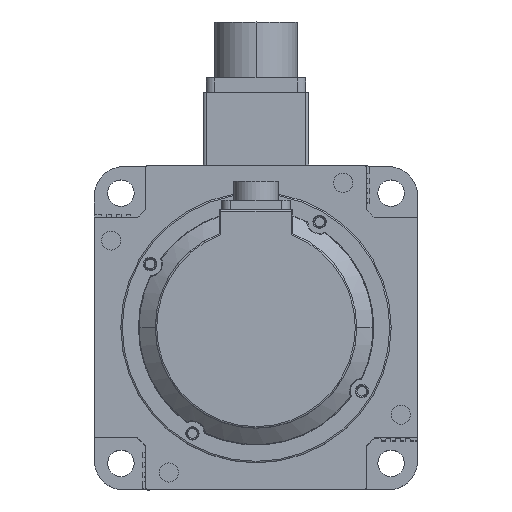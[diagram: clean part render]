
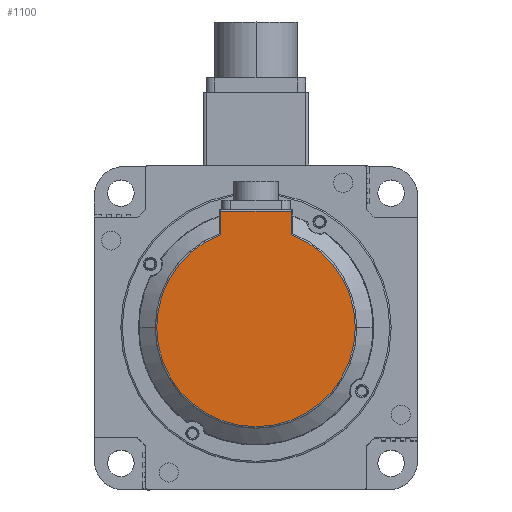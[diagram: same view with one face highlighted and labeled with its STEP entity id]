
A CAD part, top view. The second image highlights one B-rep face of the part: STEP entity #1100.
In plain terms, the highlighted planar face has unit normal (0, 0, 1).
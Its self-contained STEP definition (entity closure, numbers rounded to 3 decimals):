
#358 = CARTESIAN_POINT ( 'NONE',  ( -12., 31.576, 45. ) ) ;
#372 = LINE ( 'NONE', #7943, #14443 ) ;
#588 = LINE ( 'NONE', #12283, #15883 ) ;
#693 = ORIENTED_EDGE ( 'NONE', *, *, #9144, .T. ) ;
#1100 = ADVANCED_FACE ( 'NONE', ( #15569 ), #11521, .T. ) ;
#1903 = AXIS2_PLACEMENT_3D ( 'NONE', #15129, #9619, #17563 ) ;
#1975 = VERTEX_POINT ( 'NONE', #12687 ) ;
#2349 = CARTESIAN_POINT ( 'NONE',  ( -12.5, 39.5, 45. ) ) ;
#2707 = DIRECTION ( 'NONE',  ( 1., 0., 0. ) ) ;
#2713 = VERTEX_POINT ( 'NONE', #358 ) ;
#3403 = DIRECTION ( 'NONE',  ( 0., 0., 1. ) ) ;
#3721 = VERTEX_POINT ( 'NONE', #20125 ) ;
#4259 = EDGE_CURVE ( 'NONE', #20992, #22318, #9050, .T. ) ;
#4717 = AXIS2_PLACEMENT_3D ( 'NONE', #24112, #8307, #2707 ) ;
#4941 = AXIS2_PLACEMENT_3D ( 'NONE', #21591, #3403, #19658 ) ;
#6242 = VERTEX_POINT ( 'NONE', #18673 ) ;
#6889 = AXIS2_PLACEMENT_3D ( 'NONE', #13122, #13301, #17041 ) ;
#7021 = EDGE_CURVE ( 'NONE', #2713, #3721, #13627, .T. ) ;
#7943 = CARTESIAN_POINT ( 'NONE',  ( 12., 0., 45. ) ) ;
#8307 = DIRECTION ( 'NONE',  ( 0., 0., 1. ) ) ;
#8375 = DIRECTION ( 'NONE',  ( 0., 1., 0. ) ) ;
#9050 = LINE ( 'NONE', #2349, #19075 ) ;
#9144 = EDGE_CURVE ( 'NONE', #6242, #20992, #372, .T. ) ;
#9498 = CIRCLE ( 'NONE', #1903, 33.78 ) ;
#9619 = DIRECTION ( 'NONE',  ( 0., 0., 1. ) ) ;
#10106 = ORIENTED_EDGE ( 'NONE', *, *, #4259, .T. ) ;
#11013 = EDGE_CURVE ( 'NONE', #22318, #2713, #588, .T. ) ;
#11213 = EDGE_LOOP ( 'NONE', ( #10106, #15192, #17908, #17038, #12291, #693 ) ) ;
#11521 = PLANE ( 'NONE',  #4941 ) ;
#12283 = CARTESIAN_POINT ( 'NONE',  ( -12., 0., 45. ) ) ;
#12291 = ORIENTED_EDGE ( 'NONE', *, *, #19844, .T. ) ;
#12687 = CARTESIAN_POINT ( 'NONE',  ( 33.78, 0., 45. ) ) ;
#13122 = CARTESIAN_POINT ( 'NONE',  ( 0., 0., 45. ) ) ;
#13301 = DIRECTION ( 'NONE',  ( 0., 0., 1. ) ) ;
#13627 = CIRCLE ( 'NONE', #6889, 33.78 ) ;
#14443 = VECTOR ( 'NONE', #8375, 1000. ) ;
#15129 = CARTESIAN_POINT ( 'NONE',  ( 0., 0., 45. ) ) ;
#15192 = ORIENTED_EDGE ( 'NONE', *, *, #11013, .T. ) ;
#15569 = FACE_OUTER_BOUND ( 'NONE', #11213, .T. ) ;
#15883 = VECTOR ( 'NONE', #20342, 1000. ) ;
#16120 = DIRECTION ( 'NONE',  ( -1., 0., 0. ) ) ;
#16372 = CIRCLE ( 'NONE', #4717, 33.78 ) ;
#17038 = ORIENTED_EDGE ( 'NONE', *, *, #19518, .T. ) ;
#17041 = DIRECTION ( 'NONE',  ( 1., 0., 0. ) ) ;
#17563 = DIRECTION ( 'NONE',  ( 1., 0., 0. ) ) ;
#17908 = ORIENTED_EDGE ( 'NONE', *, *, #7021, .T. ) ;
#18673 = CARTESIAN_POINT ( 'NONE',  ( 12., 31.576, 45. ) ) ;
#19075 = VECTOR ( 'NONE', #16120, 1000. ) ;
#19518 = EDGE_CURVE ( 'NONE', #3721, #1975, #16372, .T. ) ;
#19658 = DIRECTION ( 'NONE',  ( 1., 0., 0. ) ) ;
#19717 = CARTESIAN_POINT ( 'NONE',  ( 12., 39.5, 45. ) ) ;
#19844 = EDGE_CURVE ( 'NONE', #1975, #6242, #9498, .T. ) ;
#20125 = CARTESIAN_POINT ( 'NONE',  ( -33.78, 0., 45. ) ) ;
#20342 = DIRECTION ( 'NONE',  ( 0., -1., 0. ) ) ;
#20593 = CARTESIAN_POINT ( 'NONE',  ( -12., 39.5, 45. ) ) ;
#20992 = VERTEX_POINT ( 'NONE', #19717 ) ;
#21591 = CARTESIAN_POINT ( 'NONE',  ( 0., 0., 45. ) ) ;
#22318 = VERTEX_POINT ( 'NONE', #20593 ) ;
#24112 = CARTESIAN_POINT ( 'NONE',  ( 0., 0., 45. ) ) ;
